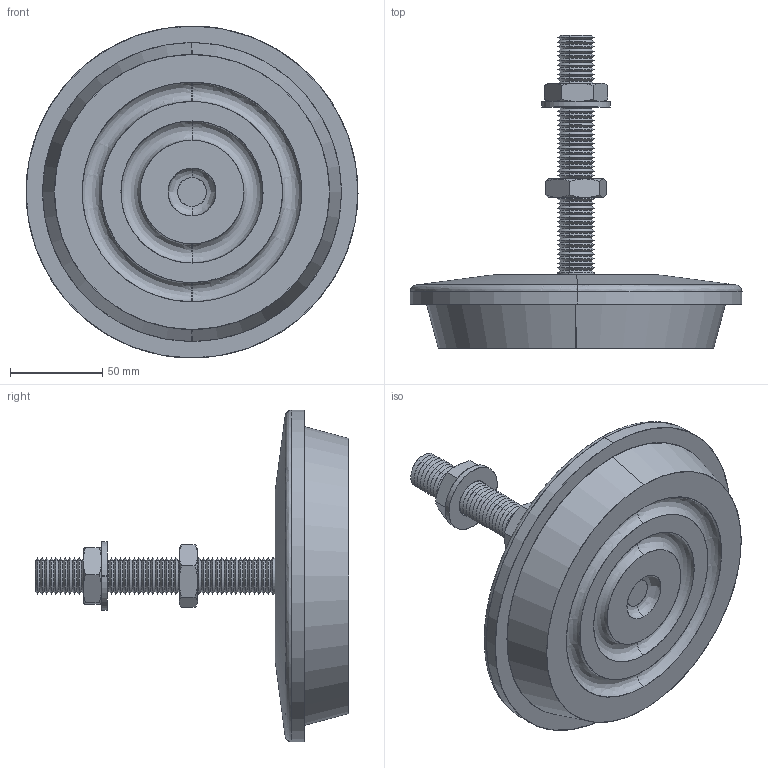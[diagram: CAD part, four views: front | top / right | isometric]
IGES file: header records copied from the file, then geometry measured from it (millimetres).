
Start section: SolidWorks IGES file using analytic representation for surfaces
Global section: file name: C:\Documents and Settings\IANO\Desktop\Temp File\Process pending\EXISTING\34930_v2\34930_v2_20170626_IGES\34930.W0480.igs; native system: SolidWorks 2009; preprocessor: SolidWorks 2009; author: IANO; date: 170626.131548; units: millimetre
Bounding box: 179.99 x 170 x 179.99 mm (x, y, z)
Surface area: 131382.4 mm2 (no closed solid volume)
Topology: 0 solids, 0 shells, 296 faces, 2762 edges, 2762 vertices
Faces by surface type: revolution 261, bspline 35
